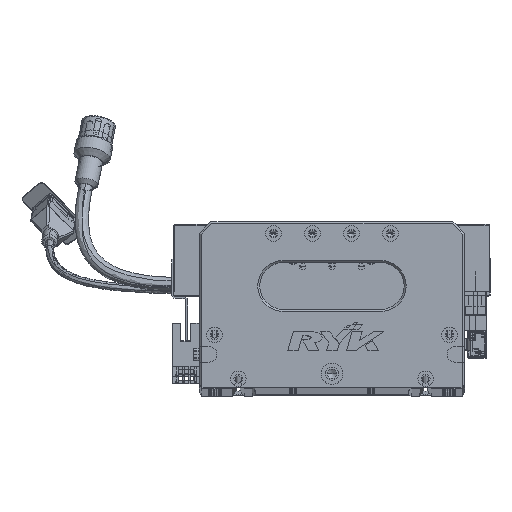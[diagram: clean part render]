
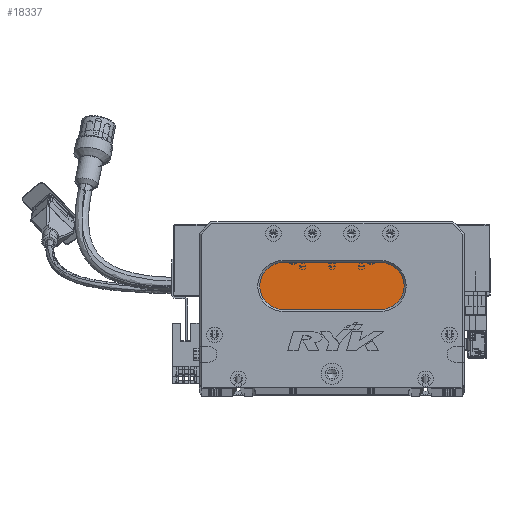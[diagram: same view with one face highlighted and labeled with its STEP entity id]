
A CAD part, top view. The second image highlights one B-rep face of the part: STEP entity #18337.
In plain terms, the highlighted planar face has unit normal (0, 0, 1) as drawn and (0, 0, -1) by its records, which use the part's own axes.
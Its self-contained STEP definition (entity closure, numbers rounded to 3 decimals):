
#72 = CARTESIAN_POINT ( 'NONE',  ( 93., 64., 13. ) ) ;
#5846 = EDGE_CURVE ( 'NONE', #26951, #103867, #23897, .T. ) ;
#5958 = CARTESIAN_POINT ( 'NONE',  ( 43., 52., 13. ) ) ;
#7534 = DIRECTION ( 'NONE',  ( 0., 0., -1. ) ) ;
#7974 = EDGE_CURVE ( 'NONE', #100823, #80098, #117625, .T. ) ;
#9880 = ORIENTED_EDGE ( 'NONE', *, *, #23874, .T. ) ;
#15665 = DIRECTION ( 'NONE',  ( 0., 0., -1. ) ) ;
#18337 = ADVANCED_FACE ( 'NONE', ( #65958 ), #117114, .T. ) ;
#21776 = CARTESIAN_POINT ( 'NONE',  ( 31., 52., 13. ) ) ;
#22719 = AXIS2_PLACEMENT_3D ( 'NONE', #89215, #108628, #53614 ) ;
#23874 = EDGE_CURVE ( 'NONE', #76167, #26951, #78311, .T. ) ;
#23897 = CIRCLE ( 'NONE', #55734, 12. ) ;
#26078 = DIRECTION ( 'NONE',  ( -1., 0., 0. ) ) ;
#26951 = VERTEX_POINT ( 'NONE', #21776 ) ;
#35766 = CARTESIAN_POINT ( 'NONE',  ( 43., 64., 13. ) ) ;
#48109 = AXIS2_PLACEMENT_3D ( 'NONE', #54383, #15665, #81882 ) ;
#48976 = EDGE_CURVE ( 'NONE', #103867, #100823, #101405, .T. ) ;
#49842 = DIRECTION ( 'NONE',  ( -1., 0., 0. ) ) ;
#52031 = DIRECTION ( 'NONE',  ( -1., 0., 0. ) ) ;
#53614 = DIRECTION ( 'NONE',  ( -1., 0., 0. ) ) ;
#54383 = CARTESIAN_POINT ( 'NONE',  ( 93., 52., 13. ) ) ;
#55734 = AXIS2_PLACEMENT_3D ( 'NONE', #5958, #7534, #52031 ) ;
#65239 = CARTESIAN_POINT ( 'NONE',  ( 93., 40., 13. ) ) ;
#65860 = ORIENTED_EDGE ( 'NONE', *, *, #48976, .T. ) ;
#65958 = FACE_OUTER_BOUND ( 'NONE', #105598, .T. ) ;
#68419 = DIRECTION ( 'NONE',  ( 0., 0., -1. ) ) ;
#73813 = VECTOR ( 'NONE', #99183, 1000. ) ;
#76167 = VERTEX_POINT ( 'NONE', #100131 ) ;
#77025 = ORIENTED_EDGE ( 'NONE', *, *, #111967, .T. ) ;
#78311 = CIRCLE ( 'NONE', #104281, 12. ) ;
#80098 = VERTEX_POINT ( 'NONE', #65239 ) ;
#80624 = LINE ( 'NONE', #90309, #108151 ) ;
#81882 = DIRECTION ( 'NONE',  ( -1., 0., 0. ) ) ;
#88582 = ORIENTED_EDGE ( 'NONE', *, *, #5846, .T. ) ;
#89215 = CARTESIAN_POINT ( 'NONE',  ( 93., 52., 13. ) ) ;
#90309 = CARTESIAN_POINT ( 'NONE',  ( 93., 40., 13. ) ) ;
#95133 = CARTESIAN_POINT ( 'NONE',  ( 43., 52., 13. ) ) ;
#98387 = CARTESIAN_POINT ( 'NONE',  ( 93., 64., 13. ) ) ;
#99183 = DIRECTION ( 'NONE',  ( 1., 0., 0. ) ) ;
#100131 = CARTESIAN_POINT ( 'NONE',  ( 43., 40., 13. ) ) ;
#100823 = VERTEX_POINT ( 'NONE', #72 ) ;
#101405 = LINE ( 'NONE', #98387, #73813 ) ;
#101887 = ORIENTED_EDGE ( 'NONE', *, *, #7974, .T. ) ;
#103867 = VERTEX_POINT ( 'NONE', #35766 ) ;
#104281 = AXIS2_PLACEMENT_3D ( 'NONE', #95133, #68419, #49842 ) ;
#105598 = EDGE_LOOP ( 'NONE', ( #101887, #77025, #9880, #88582, #65860 ) ) ;
#108151 = VECTOR ( 'NONE', #26078, 1000. ) ;
#108628 = DIRECTION ( 'NONE',  ( 0., 0., -1. ) ) ;
#111967 = EDGE_CURVE ( 'NONE', #80098, #76167, #80624, .T. ) ;
#117114 = PLANE ( 'NONE',  #22719 ) ;
#117625 = CIRCLE ( 'NONE', #48109, 12. ) ;
